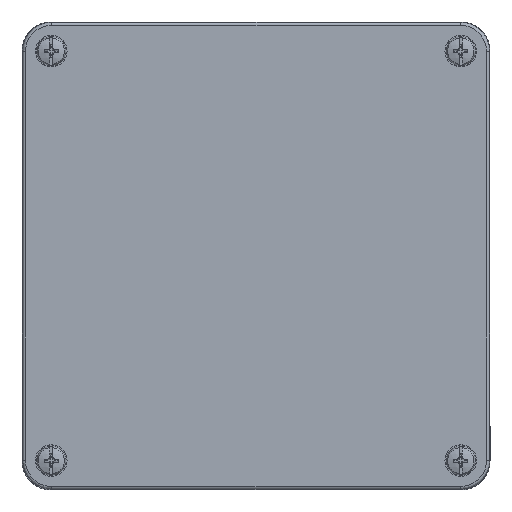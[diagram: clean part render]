
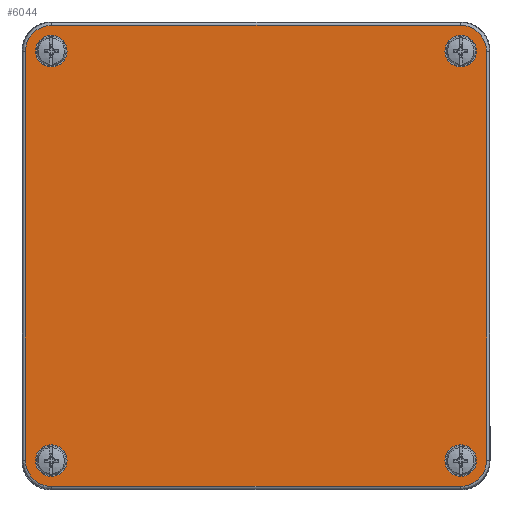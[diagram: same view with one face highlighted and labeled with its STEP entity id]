
A CAD part, top view. The second image highlights one B-rep face of the part: STEP entity #6044.
In plain terms, the highlighted planar face has unit normal (0, 0, 1).
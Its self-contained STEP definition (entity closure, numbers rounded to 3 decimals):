
#85=ELLIPSE('',#6766,9.001,9.);
#87=ELLIPSE('',#6771,9.001,9.);
#89=ELLIPSE('',#6777,9.001,9.);
#91=ELLIPSE('',#6782,9.001,9.);
#211=FACE_BOUND('',#2166,.T.);
#212=FACE_BOUND('',#2167,.T.);
#213=FACE_BOUND('',#2168,.T.);
#214=FACE_BOUND('',#2169,.T.);
#391=PLANE('',#6790);
#827=LINE('',#10586,#1209);
#833=LINE('',#10671,#1215);
#835=LINE('',#10674,#1217);
#837=LINE('',#10677,#1219);
#1209=VECTOR('',#8573,139.664);
#1215=VECTOR('',#8601,139.664);
#1217=VECTOR('',#8605,139.664);
#1219=VECTOR('',#8609,139.664);
#1676=FACE_OUTER_BOUND('',#2165,.T.);
#2165=EDGE_LOOP('',(#5437,#5438,#5439,#5440,#5441,#5442,#5443,#5444));
#2166=EDGE_LOOP('',(#5445));
#2167=EDGE_LOOP('',(#5446));
#2168=EDGE_LOOP('',(#5447));
#2169=EDGE_LOOP('',(#5448));
#2474=CIRCLE('',#6545,5.4);
#2477=CIRCLE('',#6551,5.4);
#2480=CIRCLE('',#6557,5.4);
#2483=CIRCLE('',#6563,5.4);
#2983=VERTEX_POINT('',#10054);
#2986=VERTEX_POINT('',#10063);
#2989=VERTEX_POINT('',#10072);
#2992=VERTEX_POINT('',#10081);
#3122=VERTEX_POINT('',#10533);
#3124=VERTEX_POINT('',#10537);
#3126=VERTEX_POINT('',#10574);
#3128=VERTEX_POINT('',#10578);
#3130=VERTEX_POINT('',#10618);
#3132=VERTEX_POINT('',#10622);
#3134=VERTEX_POINT('',#10659);
#3136=VERTEX_POINT('',#10663);
#3678=EDGE_CURVE('',#2983,#2983,#2474,.T.);
#3681=EDGE_CURVE('',#2986,#2986,#2477,.T.);
#3684=EDGE_CURVE('',#2989,#2989,#2480,.T.);
#3687=EDGE_CURVE('',#2992,#2992,#2483,.T.);
#3899=EDGE_CURVE('',#3124,#3122,#85,.T.);
#3905=EDGE_CURVE('',#3128,#3126,#87,.T.);
#3909=EDGE_CURVE('',#3122,#3128,#827,.T.);
#3913=EDGE_CURVE('',#3132,#3130,#89,.T.);
#3919=EDGE_CURVE('',#3136,#3134,#91,.T.);
#3923=EDGE_CURVE('',#3126,#3136,#833,.T.);
#3925=EDGE_CURVE('',#3134,#3132,#835,.T.);
#3927=EDGE_CURVE('',#3130,#3124,#837,.T.);
#5437=ORIENTED_EDGE('',*,*,#3919,.F.);
#5438=ORIENTED_EDGE('',*,*,#3923,.F.);
#5439=ORIENTED_EDGE('',*,*,#3905,.F.);
#5440=ORIENTED_EDGE('',*,*,#3909,.F.);
#5441=ORIENTED_EDGE('',*,*,#3899,.F.);
#5442=ORIENTED_EDGE('',*,*,#3927,.F.);
#5443=ORIENTED_EDGE('',*,*,#3913,.F.);
#5444=ORIENTED_EDGE('',*,*,#3925,.F.);
#5445=ORIENTED_EDGE('',*,*,#3678,.T.);
#5446=ORIENTED_EDGE('',*,*,#3681,.T.);
#5447=ORIENTED_EDGE('',*,*,#3684,.T.);
#5448=ORIENTED_EDGE('',*,*,#3687,.T.);
#6044=ADVANCED_FACE('',(#1676,#211,#212,#213,#214),#391,.T.);
#6545=AXIS2_PLACEMENT_3D('',#10055,#8018,#8019);
#6551=AXIS2_PLACEMENT_3D('',#10064,#8030,#8031);
#6557=AXIS2_PLACEMENT_3D('',#10073,#8042,#8043);
#6563=AXIS2_PLACEMENT_3D('',#10082,#8054,#8055);
#6766=AXIS2_PLACEMENT_3D('',#10539,#8552,#8553);
#6771=AXIS2_PLACEMENT_3D('',#10580,#8564,#8565);
#6777=AXIS2_PLACEMENT_3D('',#10624,#8580,#8581);
#6782=AXIS2_PLACEMENT_3D('',#10665,#8592,#8593);
#6790=AXIS2_PLACEMENT_3D('',#10681,#8616,#8617);
#8018=DIRECTION('center_axis',(0.,0.,-1.));
#8019=DIRECTION('ref_axis',(1.,0.,0.));
#8030=DIRECTION('center_axis',(0.,0.,-1.));
#8031=DIRECTION('ref_axis',(1.,0.,0.));
#8042=DIRECTION('center_axis',(0.,0.,-1.));
#8043=DIRECTION('ref_axis',(1.,0.,0.));
#8054=DIRECTION('center_axis',(0.,0.,-1.));
#8055=DIRECTION('ref_axis',(1.,0.,0.));
#8552=DIRECTION('center_axis',(0.,0.,-1.));
#8553=DIRECTION('ref_axis',(-0.707,-0.707,0.));
#8564=DIRECTION('center_axis',(0.,0.,-1.));
#8565=DIRECTION('ref_axis',(-0.707,0.707,0.));
#8573=DIRECTION('',(0.,1.,0.));
#8580=DIRECTION('center_axis',(0.,0.,-1.));
#8581=DIRECTION('ref_axis',(0.707,-0.707,0.));
#8592=DIRECTION('center_axis',(0.,0.,-1.));
#8593=DIRECTION('ref_axis',(0.707,0.707,0.));
#8601=DIRECTION('',(1.,0.,0.));
#8605=DIRECTION('',(0.,-1.,0.));
#8609=DIRECTION('',(-1.,0.,0.));
#8616=DIRECTION('center_axis',(0.,0.,1.));
#8617=DIRECTION('ref_axis',(1.,0.,0.));
#10054=CARTESIAN_POINT('',(-64.6,-70.,20.3));
#10055=CARTESIAN_POINT('Origin',(-70.,-70.,20.3));
#10063=CARTESIAN_POINT('',(75.4,-70.,20.3));
#10064=CARTESIAN_POINT('Origin',(70.,-70.,20.3));
#10072=CARTESIAN_POINT('',(75.4,70.,20.3));
#10073=CARTESIAN_POINT('Origin',(70.,70.,20.3));
#10081=CARTESIAN_POINT('',(-64.6,70.,20.3));
#10082=CARTESIAN_POINT('Origin',(-70.,70.,20.3));
#10533=CARTESIAN_POINT('',(-78.832,-69.832,20.3));
#10537=CARTESIAN_POINT('',(-69.832,-78.832,20.3));
#10539=CARTESIAN_POINT('Origin',(-69.831,-69.831,20.3));
#10574=CARTESIAN_POINT('',(-69.832,78.832,20.3));
#10578=CARTESIAN_POINT('',(-78.832,69.832,20.3));
#10580=CARTESIAN_POINT('Origin',(-69.831,69.831,20.3));
#10586=CARTESIAN_POINT('',(-78.832,-40.,20.3));
#10618=CARTESIAN_POINT('',(69.832,-78.832,20.3));
#10622=CARTESIAN_POINT('',(78.832,-69.832,20.3));
#10624=CARTESIAN_POINT('Origin',(69.831,-69.831,20.3));
#10659=CARTESIAN_POINT('',(78.832,69.832,20.3));
#10663=CARTESIAN_POINT('',(69.832,78.832,20.3));
#10665=CARTESIAN_POINT('Origin',(69.831,69.831,20.3));
#10671=CARTESIAN_POINT('',(-40.,78.832,20.3));
#10674=CARTESIAN_POINT('',(78.832,40.,20.3));
#10677=CARTESIAN_POINT('',(40.,-78.832,20.3));
#10681=CARTESIAN_POINT('Origin',(0.,0.,20.3));
